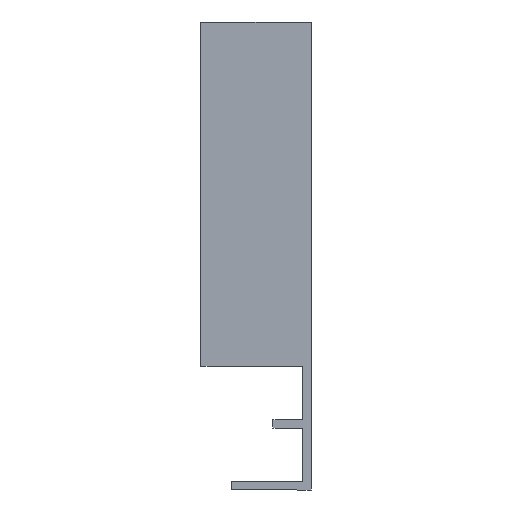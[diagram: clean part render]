
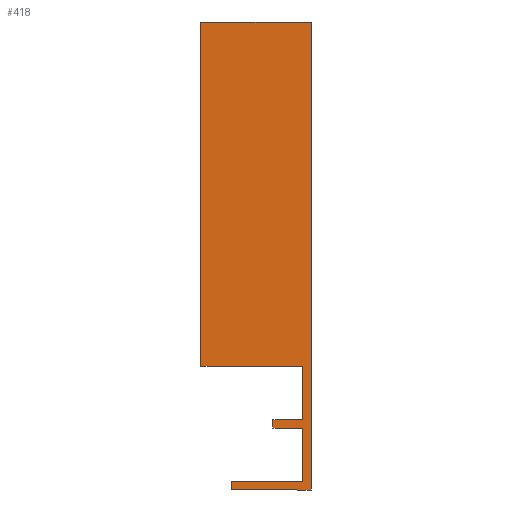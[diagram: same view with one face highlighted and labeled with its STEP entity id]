
A CAD part, left-side view. The second image highlights one B-rep face of the part: STEP entity #418.
In plain terms, the highlighted planar face has unit normal (-1, 0, 0).
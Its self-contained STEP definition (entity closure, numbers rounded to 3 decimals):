
#6 = VECTOR ( 'NONE', #386, 1000. ) ;
#7 = LINE ( 'NONE', #385, #6 ) ;
#8 = VECTOR ( 'NONE', #384, 1000. ) ;
#9 = LINE ( 'NONE', #383, #8 ) ;
#14 = VECTOR ( 'NONE', #378, 1000. ) ;
#15 = LINE ( 'NONE', #377, #14 ) ;
#19 = VECTOR ( 'NONE', #374, 1000. ) ;
#30 = VECTOR ( 'NONE', #362, 1000. ) ;
#31 = LINE ( 'NONE', #361, #30 ) ;
#34 = VECTOR ( 'NONE', #358, 1000. ) ;
#35 = LINE ( 'NONE', #357, #34 ) ;
#42 = VECTOR ( 'NONE', #350, 1000. ) ;
#43 = LINE ( 'NONE', #349, #42 ) ;
#44 = VECTOR ( 'NONE', #348, 1000. ) ;
#45 = LINE ( 'NONE', #347, #44 ) ;
#46 = LINE ( 'NONE', #367, #19 ) ;
#51 = VECTOR ( 'NONE', #340, 1000. ) ;
#52 = LINE ( 'NONE', #339, #51 ) ;
#53 = VECTOR ( 'NONE', #338, 1000. ) ;
#54 = LINE ( 'NONE', #337, #53 ) ;
#60 = VECTOR ( 'NONE', #331, 1000. ) ;
#61 = VECTOR ( 'NONE', #329, 1000. ) ;
#62 = LINE ( 'NONE', #328, #61 ) ;
#68 = LINE ( 'NONE', #326, #60 ) ;
#98 = FACE_OUTER_BOUND ( 'NONE', #119, .T. ) ;
#119 = EDGE_LOOP ( 'NONE', ( #123, #122, #180, #179, #178, #177, #158, #157, #156, #150, #149, #148 ) ) ;
#122 = ORIENTED_EDGE ( 'NONE', *, *, #478, .T. ) ;
#123 = ORIENTED_EDGE ( 'NONE', *, *, #483, .T. ) ;
#148 = ORIENTED_EDGE ( 'NONE', *, *, #506, .T. ) ;
#149 = ORIENTED_EDGE ( 'NONE', *, *, #505, .T. ) ;
#150 = ORIENTED_EDGE ( 'NONE', *, *, #502, .T. ) ;
#156 = ORIENTED_EDGE ( 'NONE', *, *, #500, .T. ) ;
#157 = ORIENTED_EDGE ( 'NONE', *, *, #482, .T. ) ;
#158 = ORIENTED_EDGE ( 'NONE', *, *, #492, .T. ) ;
#177 = ORIENTED_EDGE ( 'NONE', *, *, #479, .T. ) ;
#178 = ORIENTED_EDGE ( 'NONE', *, *, #488, .T. ) ;
#179 = ORIENTED_EDGE ( 'NONE', *, *, #494, .T. ) ;
#180 = ORIENTED_EDGE ( 'NONE', *, *, #487, .T. ) ;
#204 = VERTEX_POINT ( 'NONE', #434 ) ;
#209 = VERTEX_POINT ( 'NONE', #452 ) ;
#211 = VERTEX_POINT ( 'NONE', #451 ) ;
#220 = PLANE ( 'NONE',  #516 ) ;
#225 = CARTESIAN_POINT ( 'NONE',  ( -385.5, 6., -16.7 ) ) ;
#238 = DIRECTION ( 'NONE',  ( -1., 0., 0. ) ) ;
#239 = DIRECTION ( 'NONE',  ( 0., -1., 0. ) ) ;
#280 = CARTESIAN_POINT ( 'NONE',  ( -385.5, -4.3, -16.7 ) ) ;
#281 = CARTESIAN_POINT ( 'NONE',  ( -385.5, -5.5, -17.9 ) ) ;
#284 = CARTESIAN_POINT ( 'NONE',  ( -385.5, -4.3, -7.75 ) ) ;
#286 = CARTESIAN_POINT ( 'NONE',  ( -385.5, -5.5, 49.7 ) ) ;
#289 = CARTESIAN_POINT ( 'NONE',  ( -385.5, -4.3, 0. ) ) ;
#291 = CARTESIAN_POINT ( 'NONE',  ( -385.5, 0., -7.75 ) ) ;
#294 = CARTESIAN_POINT ( 'NONE',  ( -385.5, -4.3, -8.95 ) ) ;
#296 = CARTESIAN_POINT ( 'NONE',  ( -385.5, 10.4, 49.7 ) ) ;
#297 = CARTESIAN_POINT ( 'NONE',  ( -385.5, 6., -17.9 ) ) ;
#326 = CARTESIAN_POINT ( 'NONE',  ( -385.5, 10.4, 49.7 ) ) ;
#328 = CARTESIAN_POINT ( 'NONE',  ( -385.5, 6., -16.7 ) ) ;
#329 = DIRECTION ( 'NONE',  ( 0., 0., -1. ) ) ;
#331 = DIRECTION ( 'NONE',  ( 0., 0., -1. ) ) ;
#337 = CARTESIAN_POINT ( 'NONE',  ( -385.5, -4.3, 0. ) ) ;
#338 = DIRECTION ( 'NONE',  ( 0., 0., -1. ) ) ;
#339 = CARTESIAN_POINT ( 'NONE',  ( -385.5, -4.3, -16.7 ) ) ;
#340 = DIRECTION ( 'NONE',  ( 0., 1., 0. ) ) ;
#347 = CARTESIAN_POINT ( 'NONE',  ( -385.5, 6., -17.9 ) ) ;
#348 = DIRECTION ( 'NONE',  ( 0., -1., 0. ) ) ;
#349 = CARTESIAN_POINT ( 'NONE',  ( -385.5, -5.5, 49.7 ) ) ;
#350 = DIRECTION ( 'NONE',  ( 0., 1., 0. ) ) ;
#357 = CARTESIAN_POINT ( 'NONE',  ( -385.5, 10.4, 0. ) ) ;
#358 = DIRECTION ( 'NONE',  ( 0., -1., 0. ) ) ;
#361 = CARTESIAN_POINT ( 'NONE',  ( -385.5, -5.5, -17.9 ) ) ;
#362 = DIRECTION ( 'NONE',  ( 0., 0., 1. ) ) ;
#367 = CARTESIAN_POINT ( 'NONE',  ( -385.5, -4.3, -7.75 ) ) ;
#374 = DIRECTION ( 'NONE',  ( 0., 1., 0. ) ) ;
#377 = CARTESIAN_POINT ( 'NONE',  ( -385.5, 0., -7.75 ) ) ;
#378 = DIRECTION ( 'NONE',  ( 0., 0., -1. ) ) ;
#383 = CARTESIAN_POINT ( 'NONE',  ( -385.5, 0., -8.95 ) ) ;
#384 = DIRECTION ( 'NONE',  ( 0., -1., 0. ) ) ;
#385 = CARTESIAN_POINT ( 'NONE',  ( -385.5, -4.3, -8.95 ) ) ;
#386 = DIRECTION ( 'NONE',  ( 0., 0., -1. ) ) ;
#418 = ADVANCED_FACE ( 'NONE', ( #98 ), #220, .T. ) ;
#430 = VERTEX_POINT ( 'NONE', #281 ) ;
#431 = VERTEX_POINT ( 'NONE', #280 ) ;
#434 = CARTESIAN_POINT ( 'NONE',  ( -385.5, 10.4, 0. ) ) ;
#436 = VERTEX_POINT ( 'NONE', #286 ) ;
#439 = VERTEX_POINT ( 'NONE', #289 ) ;
#440 = VERTEX_POINT ( 'NONE', #284 ) ;
#442 = VERTEX_POINT ( 'NONE', #291 ) ;
#445 = VERTEX_POINT ( 'NONE', #294 ) ;
#447 = VERTEX_POINT ( 'NONE', #296 ) ;
#448 = VERTEX_POINT ( 'NONE', #297 ) ;
#451 = CARTESIAN_POINT ( 'NONE',  ( -385.5, 6., -16.7 ) ) ;
#452 = CARTESIAN_POINT ( 'NONE',  ( -385.5, 0., -8.95 ) ) ;
#478 = EDGE_CURVE ( 'NONE', #211, #448, #62, .T. ) ;
#479 = EDGE_CURVE ( 'NONE', #447, #204, #68, .T. ) ;
#482 = EDGE_CURVE ( 'NONE', #439, #440, #54, .T. ) ;
#483 = EDGE_CURVE ( 'NONE', #431, #211, #52, .T. ) ;
#487 = EDGE_CURVE ( 'NONE', #448, #430, #45, .T. ) ;
#488 = EDGE_CURVE ( 'NONE', #436, #447, #43, .T. ) ;
#492 = EDGE_CURVE ( 'NONE', #204, #439, #35, .T. ) ;
#494 = EDGE_CURVE ( 'NONE', #430, #436, #31, .T. ) ;
#500 = EDGE_CURVE ( 'NONE', #440, #442, #46, .T. ) ;
#502 = EDGE_CURVE ( 'NONE', #442, #209, #15, .T. ) ;
#505 = EDGE_CURVE ( 'NONE', #209, #445, #9, .T. ) ;
#506 = EDGE_CURVE ( 'NONE', #445, #431, #7, .T. ) ;
#516 = AXIS2_PLACEMENT_3D ( 'NONE', #225, #238, #239 ) ;
